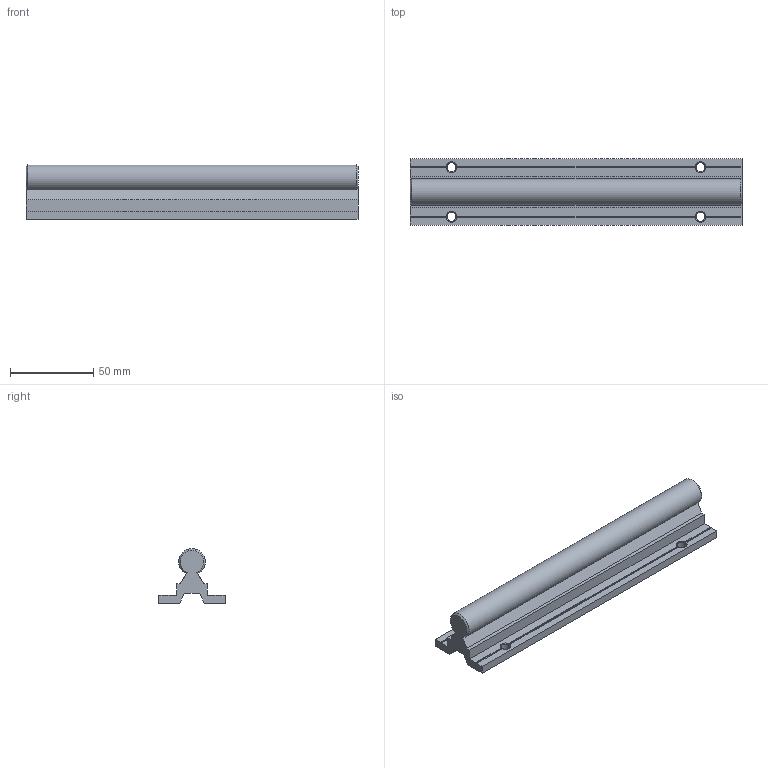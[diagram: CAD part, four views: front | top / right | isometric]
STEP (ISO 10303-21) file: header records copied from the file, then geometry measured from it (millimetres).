
FILE_DESCRIPTION(/* description */ (''),/* implementation_level */ '2;1');
FILE_NAME(/* name */ 'C:\Users\David\Desktop\stepFiles\Profilfuehrung\LFS16x200.stp',/* time_stamp */ '2018-06-24T15:18:08+02:00',/* author */ ('Buskamp'),/* organization */ (''),/* preprocessor_version */ 'ST-DEVELOPER v17',/* originating_system */ 'Autodesk Inventor 2019',/* authorisation */ '');
FILE_SCHEMA (('AUTOMOTIVE_DESIGN { 1 0 10303 214 3 1 1 }'));
Length unit declared in the file: millimetre
Products named in the file (1): Linearführung D16xvariabel
Bounding box: 200 x 40 x 32.97 mm (x, y, z)
Volume: 101942.2 mm3; surface area: 32272.2 mm2
Topology: 1 solids, 1 shells, 52 faces, 150 edges, 96 vertices
Faces by surface type: plane 37, cone 10, cylinder 5
Full cylindrical faces by diameter (mm): 5.5 x4
Entity records: 1733 total; most frequent: CARTESIAN_POINT 339, ORIENTED_EDGE 300, DIRECTION 276, EDGE_CURVE 150, VERTEX_POINT 96, AXIS2_PLACEMENT_3D 93, LINE 90, VECTOR 90
